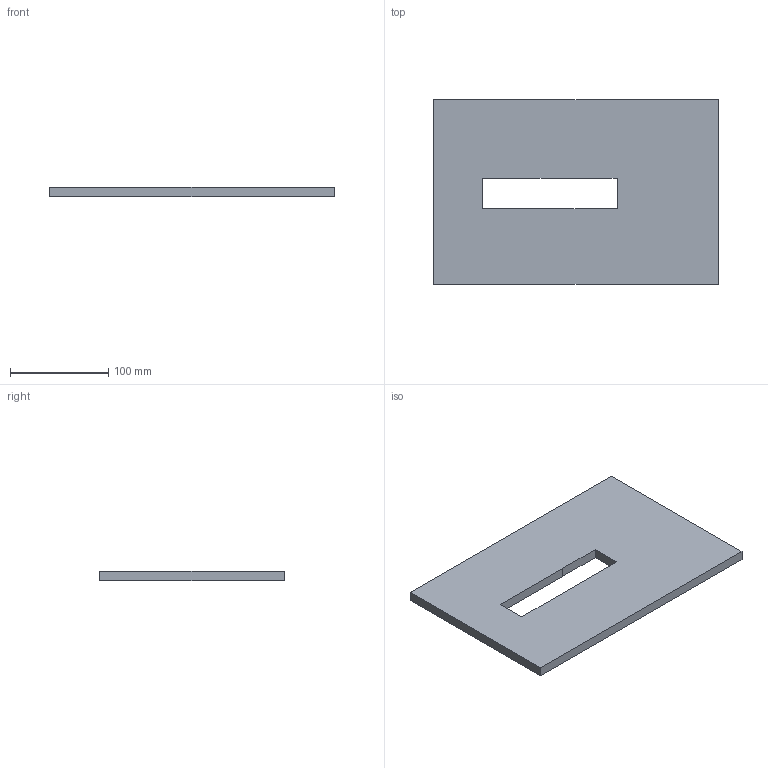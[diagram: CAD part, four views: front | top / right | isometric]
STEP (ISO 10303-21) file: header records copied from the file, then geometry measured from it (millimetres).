
FILE_DESCRIPTION(/* description */ ('STEP AP242 Edition 2','CAx-IF Rec.Pracs.---Representation and Presentation of Product Manufacturing Information (PMI)---4.0---2014-10-13','CAx-IF Rec.Pracs.---3D Tessellated Geometry---0.4---2014-09-14','2;1','CAx-IF Rec.Pracs.---User Defined Attributes---1.5---2016-08-15'),/* implementation_level */ '2;1');
FILE_NAME(/* name */ 'Part Studio 1 - Part 5',/* time_stamp */ '2026-10-19T00:09:51Z',/* author */ (''),/* organization */ (''),/* preprocessor_version */ 'ST-DEVELOPER v20',/* originating_system */ 'ONSHAPE BY PTC INC, 1.222',/* authorisation */ ' ');
FILE_SCHEMA (('AP242_MANAGED_MODEL_BASED_3D_ENGINEERING_MIM_LF { 1 0 10303 442 3 1 4 }'));
Length unit declared in the file: metre
Products named in the file (1): Part 5
Bounding box: 290.02 x 188.35 x 10 mm (x, y, z)
Volume: 504082 mm3; surface area: 113741.7 mm2
Topology: 1 solids, 1 shells, 12 faces, 30 edges, 20 vertices
Faces by surface type: plane 12
Entity records: 380 total; most frequent: CARTESIAN_POINT 63, ORIENTED_EDGE 60, DIRECTION 56, EDGE_CURVE 30, LINE 30, VECTOR 30, VERTEX_POINT 20, EDGE_LOOP 14
